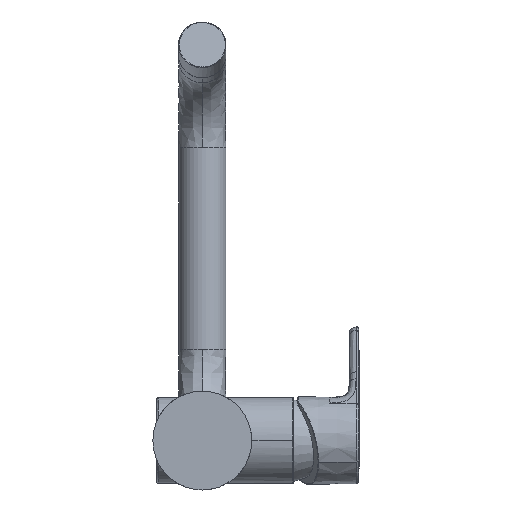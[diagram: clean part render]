
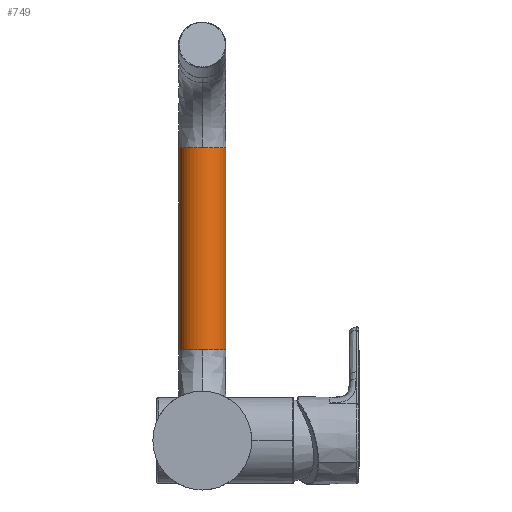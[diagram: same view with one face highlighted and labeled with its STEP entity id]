
A CAD part, front view. The second image highlights one B-rep face of the part: STEP entity #749.
In plain terms, the highlighted cylindrical face has radius 12 mm (diameter 24 mm), a partial arc.
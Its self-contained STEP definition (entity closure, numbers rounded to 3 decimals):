
#247 = VECTOR ( 'NONE', #10613, 1000. ) ;
#432 = EDGE_CURVE ( 'NONE', #4968, #3698, #3212, .T. ) ;
#545 = DIRECTION ( 'NONE',  ( 0., 1., 0. ) ) ;
#749 = ADVANCED_FACE ( 'NONE', ( #7106 ), #6285, .T. ) ;
#894 = CARTESIAN_POINT ( 'NONE',  ( 0., 209.58, 46.04 ) ) ;
#1304 = VECTOR ( 'NONE', #9387, 1000. ) ;
#1498 = CARTESIAN_POINT ( 'NONE',  ( 0., 221.58, 46.04 ) ) ;
#1735 = CARTESIAN_POINT ( 'NONE',  ( 0., 221.58, 46.04 ) ) ;
#1928 = CARTESIAN_POINT ( 'NONE',  ( 12., 221.58, 148.2 ) ) ;
#1938 = VERTEX_POINT ( 'NONE', #1995 ) ;
#1995 = CARTESIAN_POINT ( 'NONE',  ( -12., 221.58, 148.2 ) ) ;
#2373 = VERTEX_POINT ( 'NONE', #7370 ) ;
#2392 = CARTESIAN_POINT ( 'NONE',  ( 0., 221.58, 46.04 ) ) ;
#2585 = VERTEX_POINT ( 'NONE', #894 ) ;
#2765 = CARTESIAN_POINT ( 'NONE',  ( 0., 221.58, 148.2 ) ) ;
#2835 = ORIENTED_EDGE ( 'NONE', *, *, #11849, .F. ) ;
#3096 = ORIENTED_EDGE ( 'NONE', *, *, #9263, .F. ) ;
#3212 = CIRCLE ( 'NONE', #11670, 12. ) ;
#3356 = EDGE_CURVE ( 'NONE', #3698, #1938, #11149, .T. ) ;
#3698 = VERTEX_POINT ( 'NONE', #7715 ) ;
#3868 = CARTESIAN_POINT ( 'NONE',  ( -12., 221.58, 46.04 ) ) ;
#4014 = AXIS2_PLACEMENT_3D ( 'NONE', #2392, #4161, #9955 ) ;
#4112 = AXIS2_PLACEMENT_3D ( 'NONE', #2765, #12370, #11472 ) ;
#4161 = DIRECTION ( 'NONE',  ( 0., 0., 1. ) ) ;
#4516 = AXIS2_PLACEMENT_3D ( 'NONE', #1735, #11500, #4623 ) ;
#4623 = DIRECTION ( 'NONE',  ( 0., 1., 0. ) ) ;
#4968 = VERTEX_POINT ( 'NONE', #1928 ) ;
#6127 = CIRCLE ( 'NONE', #4516, 12. ) ;
#6280 = EDGE_CURVE ( 'NONE', #10311, #4968, #10394, .T. ) ;
#6283 = AXIS2_PLACEMENT_3D ( 'NONE', #1498, #9176, #545 ) ;
#6285 = CYLINDRICAL_SURFACE ( 'NONE', #4014, 12. ) ;
#6685 = CARTESIAN_POINT ( 'NONE',  ( 0., 221.58, 148.2 ) ) ;
#6763 = LINE ( 'NONE', #3868, #247 ) ;
#7106 = FACE_OUTER_BOUND ( 'NONE', #7562, .T. ) ;
#7370 = CARTESIAN_POINT ( 'NONE',  ( -12., 221.58, 46.04 ) ) ;
#7562 = EDGE_LOOP ( 'NONE', ( #2835, #8807, #3096, #7754, #11874, #10702 ) ) ;
#7715 = CARTESIAN_POINT ( 'NONE',  ( 0., 209.58, 148.2 ) ) ;
#7754 = ORIENTED_EDGE ( 'NONE', *, *, #6280, .T. ) ;
#8209 = EDGE_CURVE ( 'NONE', #2585, #2373, #6127, .T. ) ;
#8571 = CARTESIAN_POINT ( 'NONE',  ( 12., 221.58, 46.04 ) ) ;
#8807 = ORIENTED_EDGE ( 'NONE', *, *, #8209, .F. ) ;
#9176 = DIRECTION ( 'NONE',  ( 0., 0., -1. ) ) ;
#9263 = EDGE_CURVE ( 'NONE', #10311, #2585, #10551, .T. ) ;
#9387 = DIRECTION ( 'NONE',  ( 0., 0., 1. ) ) ;
#9955 = DIRECTION ( 'NONE',  ( 1., 0., 0. ) ) ;
#10180 = CARTESIAN_POINT ( 'NONE',  ( 12., 221.58, 46.04 ) ) ;
#10311 = VERTEX_POINT ( 'NONE', #10180 ) ;
#10394 = LINE ( 'NONE', #8571, #1304 ) ;
#10536 = DIRECTION ( 'NONE',  ( 1., 0., 0. ) ) ;
#10551 = CIRCLE ( 'NONE', #6283, 12. ) ;
#10613 = DIRECTION ( 'NONE',  ( 0., 0., 1. ) ) ;
#10702 = ORIENTED_EDGE ( 'NONE', *, *, #3356, .T. ) ;
#11149 = CIRCLE ( 'NONE', #4112, 12. ) ;
#11472 = DIRECTION ( 'NONE',  ( 1., 0., 0. ) ) ;
#11500 = DIRECTION ( 'NONE',  ( 0., 0., -1. ) ) ;
#11626 = DIRECTION ( 'NONE',  ( 0., 0., -1. ) ) ;
#11670 = AXIS2_PLACEMENT_3D ( 'NONE', #6685, #11626, #10536 ) ;
#11849 = EDGE_CURVE ( 'NONE', #2373, #1938, #6763, .T. ) ;
#11874 = ORIENTED_EDGE ( 'NONE', *, *, #432, .T. ) ;
#12370 = DIRECTION ( 'NONE',  ( 0., 0., -1. ) ) ;
